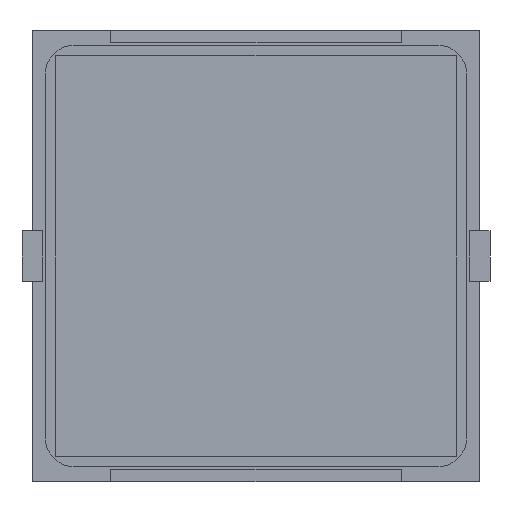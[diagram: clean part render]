
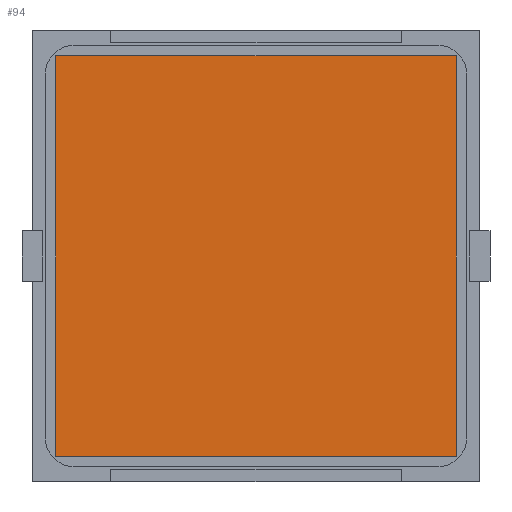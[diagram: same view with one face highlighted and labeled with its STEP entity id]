
A CAD part, front view. The second image highlights one B-rep face of the part: STEP entity #94.
In plain terms, the highlighted planar face has unit normal (0, -1, 0).
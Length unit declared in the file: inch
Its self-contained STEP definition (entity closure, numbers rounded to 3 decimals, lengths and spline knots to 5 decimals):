
#94 = ADVANCED_FACE ( 'NONE', ( #16231 ), #18028, .F. ) ;
#1045 = LINE ( 'NONE', #12392, #18921 ) ;
#1620 = VECTOR ( 'NONE', #12491, 39.37008 ) ;
#2579 = EDGE_CURVE ( 'NONE', #10359, #20615, #1045, .T. ) ;
#2715 = ORIENTED_EDGE ( 'NONE', *, *, #13666, .F. ) ;
#3914 = CARTESIAN_POINT ( 'NONE',  ( -0.7874, -0.005, -0.7874 ) ) ;
#5489 = LINE ( 'NONE', #13829, #17525 ) ;
#5766 = VERTEX_POINT ( 'NONE', #16340 ) ;
#8586 = CARTESIAN_POINT ( 'NONE',  ( 0.7874, -0.005, 0.7874 ) ) ;
#9459 = ORIENTED_EDGE ( 'NONE', *, *, #13105, .F. ) ;
#9622 = EDGE_CURVE ( 'NONE', #20615, #21966, #5489, .T. ) ;
#10359 = VERTEX_POINT ( 'NONE', #14164 ) ;
#10546 = ORIENTED_EDGE ( 'NONE', *, *, #9622, .F. ) ;
#12392 = CARTESIAN_POINT ( 'NONE',  ( -0.7874, -0.005, -0.7874 ) ) ;
#12491 = DIRECTION ( 'NONE',  ( -1., 0., 0. ) ) ;
#12723 = LINE ( 'NONE', #3914, #1620 ) ;
#13105 = EDGE_CURVE ( 'NONE', #21966, #5766, #13833, .T. ) ;
#13666 = EDGE_CURVE ( 'NONE', #5766, #10359, #12723, .T. ) ;
#13829 = CARTESIAN_POINT ( 'NONE',  ( -0.7874, -0.005, 0.7874 ) ) ;
#13833 = LINE ( 'NONE', #14162, #14410 ) ;
#13944 = DIRECTION ( 'NONE',  ( 0., 0., -1. ) ) ;
#14162 = CARTESIAN_POINT ( 'NONE',  ( 0.7874, -0.005, -0.7874 ) ) ;
#14164 = CARTESIAN_POINT ( 'NONE',  ( -0.7874, -0.005, -0.7874 ) ) ;
#14220 = CARTESIAN_POINT ( 'NONE',  ( -0.7874, -0.005, 0.7874 ) ) ;
#14410 = VECTOR ( 'NONE', #13944, 39.37008 ) ;
#14721 = ORIENTED_EDGE ( 'NONE', *, *, #2579, .F. ) ;
#14895 = DIRECTION ( 'NONE',  ( 0., 0., 1. ) ) ;
#15610 = DIRECTION ( 'NONE',  ( 1., 0., 0. ) ) ;
#16149 = EDGE_LOOP ( 'NONE', ( #14721, #2715, #9459, #10546 ) ) ;
#16231 = FACE_OUTER_BOUND ( 'NONE', #16149, .T. ) ;
#16340 = CARTESIAN_POINT ( 'NONE',  ( 0.7874, -0.005, -0.7874 ) ) ;
#16458 = CARTESIAN_POINT ( 'NONE',  ( -0.7874, -0.005, 0.7874 ) ) ;
#17525 = VECTOR ( 'NONE', #15610, 39.37008 ) ;
#17879 = DIRECTION ( 'NONE',  ( 0., 0., 1. ) ) ;
#18028 = PLANE ( 'NONE',  #20280 ) ;
#18921 = VECTOR ( 'NONE', #17879, 39.37008 ) ;
#20280 = AXIS2_PLACEMENT_3D ( 'NONE', #16458, #21332, #14895 ) ;
#20615 = VERTEX_POINT ( 'NONE', #14220 ) ;
#21332 = DIRECTION ( 'NONE',  ( 0., 1., 0. ) ) ;
#21966 = VERTEX_POINT ( 'NONE', #8586 ) ;
